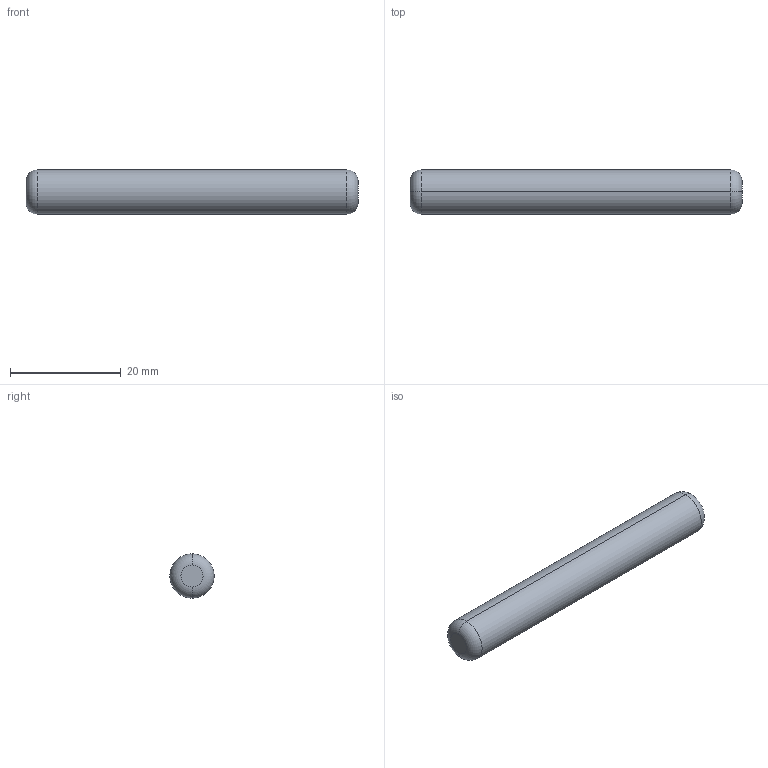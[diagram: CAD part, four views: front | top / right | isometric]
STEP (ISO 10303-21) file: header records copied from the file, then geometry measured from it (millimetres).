
FILE_DESCRIPTION (( 'STEP AP214' ), '1' );
FILE_NAME ('PAS-8x60.STEP', '2020-06-22T11:27:51', ( 'August' ), ( '' ), 'SwSTEP 2.0', 'SolidWorks 2018', '' );
FILE_SCHEMA (( 'AUTOMOTIVE_DESIGN' ));
Length unit declared in the file: millimetre
Products named in the file (1): PAS-8x60
Bounding box: 60 x 8 x 8 mm (x, y, z)
Volume: 2977.6 mm3; surface area: 1561.8 mm2
Topology: 1 solids, 1 shells, 8 faces, 14 edges, 8 vertices
Faces by surface type: torus 4, cylinder 2, plane 2
Entity records: 232 total; most frequent: DIRECTION 44, CARTESIAN_POINT 31, ORIENTED_EDGE 28, AXIS2_PLACEMENT_3D 21, EDGE_CURVE 14, CIRCLE 12, EDGE_LOOP 8, VERTEX_POINT 8
